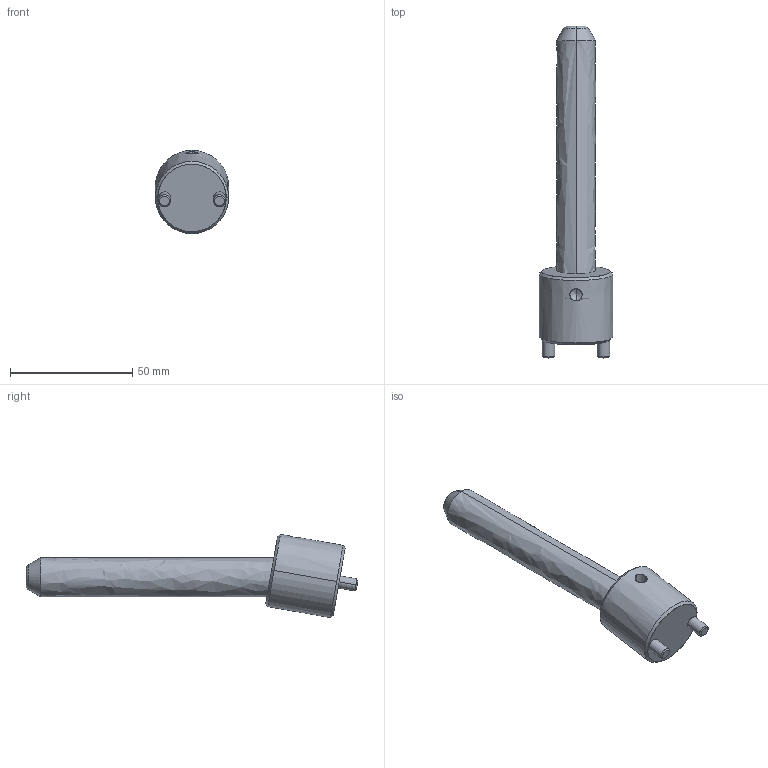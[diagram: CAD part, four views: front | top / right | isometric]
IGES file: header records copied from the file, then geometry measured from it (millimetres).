
Start section: START RECORD GO HERE.
Global section: file name: CI1016100.igs; native system: DASSAULT SYSTEMES CATIA V5 R20 - www.3ds.com; preprocessor: CATIA Version 5 Release 20 ; author: r.borello; organization: CFTORINO; date: 20190621.155318; units: millimetre
Bounding box: 30 x 135.83 x 34.06 mm (x, y, z)
Surface area: 11975.5 mm2 (no closed solid volume)
Topology: 0 solids, 0 shells, 39 faces, 162 edges, 160 vertices
Faces by surface type: revolution 32, plane 7
